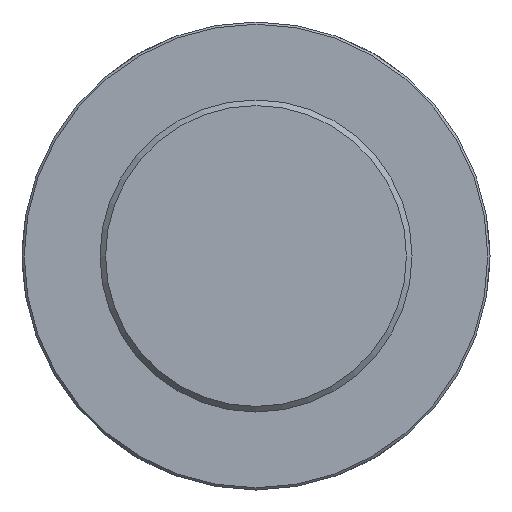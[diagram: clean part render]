
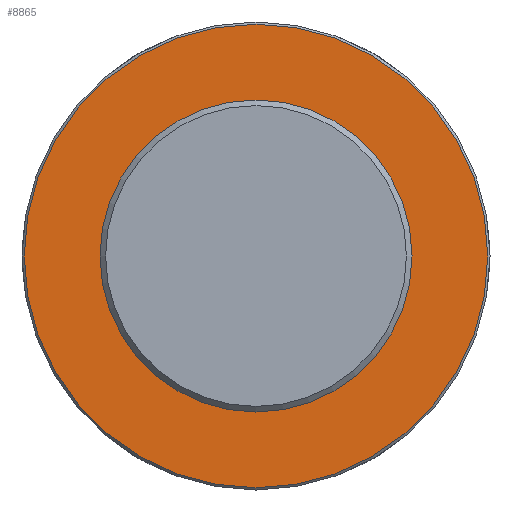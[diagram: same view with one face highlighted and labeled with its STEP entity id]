
A CAD part, front view. The second image highlights one B-rep face of the part: STEP entity #8865.
In plain terms, the highlighted planar face has unit normal (0, -1, 0) as drawn and (0, 1, 0) by its records, which use the part's own axes.
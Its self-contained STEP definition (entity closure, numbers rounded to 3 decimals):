
#73=CIRCLE('',#9237,208.);
#1226=FACE_OUTER_BOUND('',#1773,.T.);
#1773=EDGE_LOOP('',(#8095));
#4305=VERTEX_POINT('',#15893);
#5573=EDGE_CURVE('',#4305,#4305,#73,.T.);
#8095=ORIENTED_EDGE('',*,*,#5573,.F.);
#8392=PLANE('',#9240);
#8865=ADVANCED_FACE('',(#1226),#8392,.T.);
#9237=AXIS2_PLACEMENT_3D('',#15894,#10679,#10680);
#9240=AXIS2_PLACEMENT_3D('',#16132,#10685,#10686);
#10679=DIRECTION('center_axis',(0.,-1.,0.));
#10680=DIRECTION('ref_axis',(1.,0.,0.));
#10685=DIRECTION('center_axis',(0.,1.,0.));
#10686=DIRECTION('ref_axis',(0.,0.,1.));
#15893=CARTESIAN_POINT('',(-208.,190.,0.));
#15894=CARTESIAN_POINT('Origin',(0.,190.,0.));
#16132=CARTESIAN_POINT('Origin',(0.,190.,0.));
